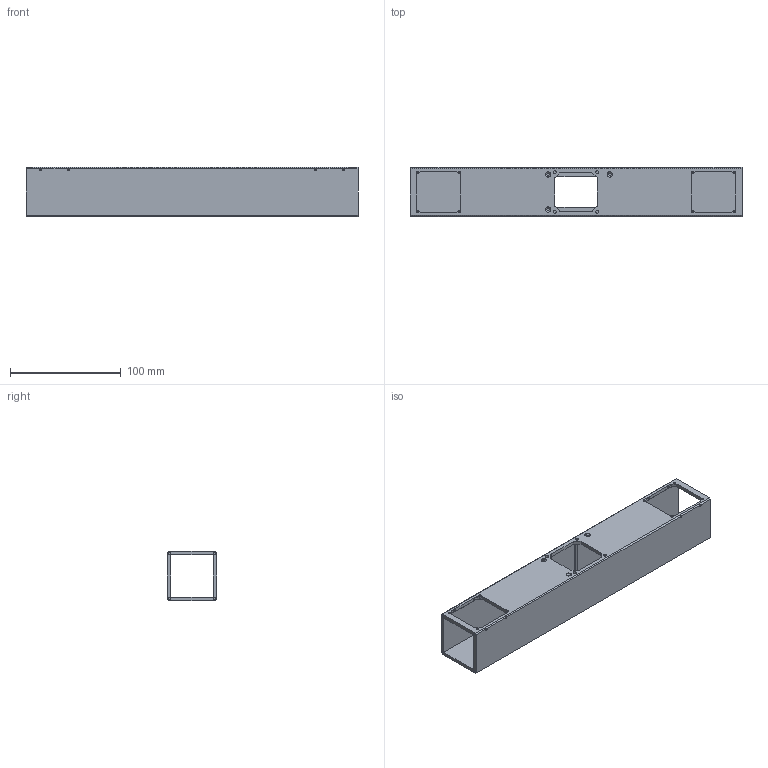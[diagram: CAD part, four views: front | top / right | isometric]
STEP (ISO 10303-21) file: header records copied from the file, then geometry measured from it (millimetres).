
FILE_DESCRIPTION(/* description */ ('VariCAD 2010-2.03 AP-203'),/* implementation_level */ '2;1');
FILE_NAME(/* name */ '0353-10-111',/* time_stamp */ '2011-03-30T11:34:23-06:00',/* author */ (''),/* organization */ (''),/* preprocessor_version */ 'ST-DEVELOPER v12',/* originating_system */ 'VariCAD 2010-2.03; kernel version (20100102)',/* authorisation */ '');
FILE_SCHEMA (('CONFIG_CONTROL_DESIGN'));
Length unit declared in the file: millimetre
Products named in the file (1): Part
Bounding box: 300 x 44.45 x 44.45 mm (x, y, z)
Volume: 135290.3 mm3; surface area: 91674.7 mm2
Topology: 29 solids, 29 shells, 447 faces, 1090 edges, 674 vertices
Faces by surface type: cylinder 242, plane 143, cone 62
Entity records: 13668 total; most frequent: DIRECTION 2526, CARTESIAN_POINT 2477, ORIENTED_EDGE 2164, EDGE_CURVE 1082, AXIS2_PLACEMENT_3D 995, VERTEX_POINT 674, EDGE_LOOP 544, LINE 536
